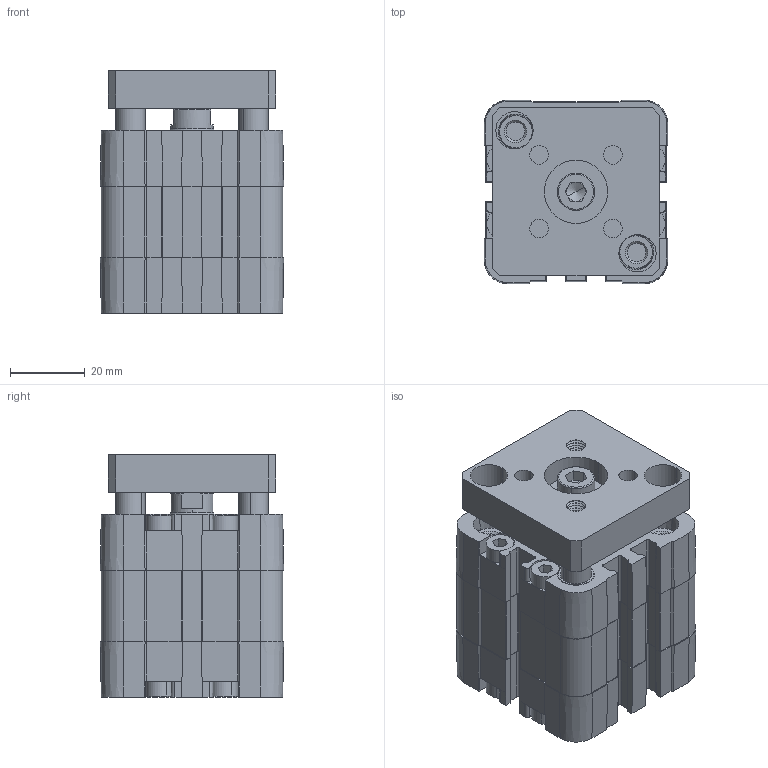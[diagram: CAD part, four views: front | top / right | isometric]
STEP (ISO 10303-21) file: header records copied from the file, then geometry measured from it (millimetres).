
FILE_DESCRIPTION (( 'STEP AP214' ), '1' );
FILE_NAME ('NSKI032.0005 F AR.STEP', '2011-06-06T13:26:52', ( 'utente' ), ( '' ), 'SwSTEP 2.0', 'SolidWorks 2009', '' );
FILE_SCHEMA (( 'AUTOMOTIVE_DESIGN' ));
Length unit declared in the file: millimetre
Products named in the file (7): ANTI ROTATION STEEM-NSKI32AR_STROKE 0005; ANTI ROTATION PLATE-NSKI32AR; FRONT END CAP-NSKI 32 AR; NSKI032.0005 F AR; PISTON ROD-NSKI 032 F AR_STROKE 0005; BARREL-NSKI32 AR_STROKE 0005; REAR END CAP-NSKI 32
Assembly tree (7 placements, depth 2):
  NSKI032.0005 F AR
    BARREL-NSKI32 AR_STROKE 0005
    PISTON ROD-NSKI 032 F AR_STROKE 0005
    ANTI ROTATION PLATE-NSKI32AR
    REAR END CAP-NSKI 32
    ANTI ROTATION STEEM-NSKI32AR_STROKE 0005  x2
    FRONT END CAP-NSKI 32 AR
Bounding box: 49.2 x 49.2 x 65 mm (x, y, z)
Volume: 112017.1 mm3; surface area: 50654.7 mm2
Topology: 8 solids, 8 shells, 1198 faces, 3072 edges, 1941 vertices
Faces by surface type: plane 546, cone 440, cylinder 210, torus 2
Entity records: 38563 total; most frequent: CARTESIAN_POINT 6664, DIRECTION 6386, ORIENTED_EDGE 6096, EDGE_CURVE 3048, AXIS2_PLACEMENT_3D 2273, VERTEX_POINT 1935, VECTOR 1840, LINE 1840
